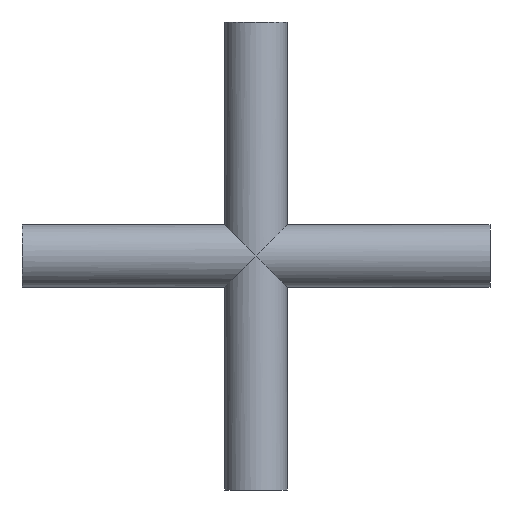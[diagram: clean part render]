
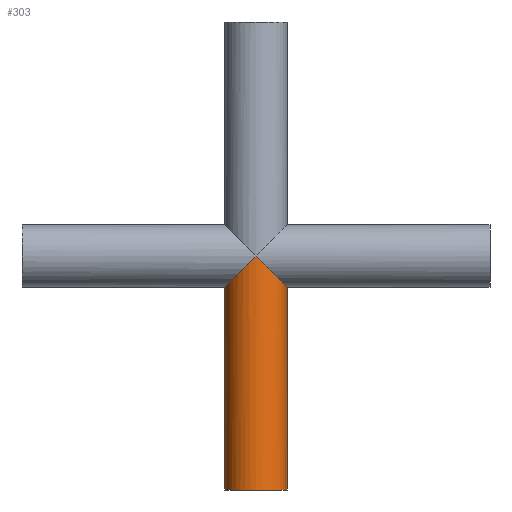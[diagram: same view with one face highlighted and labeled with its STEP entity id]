
A CAD part, front view. The second image highlights one B-rep face of the part: STEP entity #303.
In plain terms, the highlighted cylindrical face has radius 6.35 mm (diameter 12.7 mm), a partial arc.
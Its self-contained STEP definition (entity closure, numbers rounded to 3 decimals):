
#46 = LINE ( 'NONE', #204, #193 ) ;
#57 = CIRCLE ( 'NONE', #341, 6.35 ) ;
#64 = CARTESIAN_POINT ( 'NONE',  ( 0., -6.35, 0. ) ) ;
#65 = CARTESIAN_POINT ( 'NONE',  ( -6.35, -3.72, -6.35 ) ) ;
#70 = DIRECTION ( 'NONE',  ( 0., 0., 1. ) ) ;
#73 = CARTESIAN_POINT ( 'NONE',  ( -6.35, 0., -6.35 ) ) ;
#103 = CARTESIAN_POINT ( 'NONE',  ( 0., 0., -47.625 ) ) ;
#104 = ORIENTED_EDGE ( 'NONE', *, *, #285, .T. ) ;
#105 = CARTESIAN_POINT ( 'NONE',  ( 0., -6.35, 0. ) ) ;
#118 = EDGE_CURVE ( 'NONE', #192, #299, #458, .T. ) ;
#178 = VECTOR ( 'NONE', #423, 1000. ) ;
#192 = VERTEX_POINT ( 'NONE', #581 ) ;
#193 = VECTOR ( 'NONE', #70, 1000. ) ;
#199 = DIRECTION ( 'NONE',  ( 0., 0., 1. ) ) ;
#203 = CARTESIAN_POINT ( 'NONE',  ( 0., -6.35, 0. ) ) ;
#204 = CARTESIAN_POINT ( 'NONE',  ( 6.35, 0., -47.625 ) ) ;
#205 = CARTESIAN_POINT ( 'NONE',  ( 0., 0., -47.625 ) ) ;
#207 =( BOUNDED_CURVE ( )  B_SPLINE_CURVE ( 3, ( #105, #569, #65, #265 ),
 .UNSPECIFIED., .F., .T. ) 
 B_SPLINE_CURVE_WITH_KNOTS ( ( 4, 4 ),
 ( 1.571, 3.142 ),
 .UNSPECIFIED. ) 
 CURVE ( )  GEOMETRIC_REPRESENTATION_ITEM ( )  RATIONAL_B_SPLINE_CURVE ( ( 1., 0.805, 0.805, 1. ) ) 
 REPRESENTATION_ITEM ( '' )  );
#208 = DIRECTION ( 'NONE',  ( 1., 0., 0. ) ) ;
#217 = CARTESIAN_POINT ( 'NONE',  ( 6.35, 0., -47.625 ) ) ;
#219 = EDGE_CURVE ( 'NONE', #299, #413, #207, .T. ) ;
#234 = ORIENTED_EDGE ( 'NONE', *, *, #252, .F. ) ;
#252 = EDGE_CURVE ( 'NONE', #498, #413, #345, .T. ) ;
#265 = CARTESIAN_POINT ( 'NONE',  ( -6.35, 0., -6.35 ) ) ;
#266 = CARTESIAN_POINT ( 'NONE',  ( 6.35, 0., -6.35 ) ) ;
#285 = EDGE_CURVE ( 'NONE', #414, #192, #46, .T. ) ;
#299 = VERTEX_POINT ( 'NONE', #203 ) ;
#303 = ADVANCED_FACE ( 'NONE', ( #483 ), #456, .T. ) ;
#325 = ORIENTED_EDGE ( 'NONE', *, *, #389, .T. ) ;
#341 = AXIS2_PLACEMENT_3D ( 'NONE', #103, #484, #631 ) ;
#345 = LINE ( 'NONE', #524, #178 ) ;
#349 = AXIS2_PLACEMENT_3D ( 'NONE', #205, #199, #208 ) ;
#382 = ORIENTED_EDGE ( 'NONE', *, *, #118, .T. ) ;
#389 = EDGE_CURVE ( 'NONE', #498, #414, #57, .T. ) ;
#413 = VERTEX_POINT ( 'NONE', #73 ) ;
#414 = VERTEX_POINT ( 'NONE', #217 ) ;
#423 = DIRECTION ( 'NONE',  ( 0., 0., 1. ) ) ;
#456 = CYLINDRICAL_SURFACE ( 'NONE', #349, 6.35 ) ;
#458 =( BOUNDED_CURVE ( )  B_SPLINE_CURVE ( 3, ( #266, #621, #572, #64 ),
 .UNSPECIFIED., .F., .T. ) 
 B_SPLINE_CURVE_WITH_KNOTS ( ( 4, 4 ),
 ( 0., 1.571 ),
 .UNSPECIFIED. ) 
 CURVE ( )  GEOMETRIC_REPRESENTATION_ITEM ( )  RATIONAL_B_SPLINE_CURVE ( ( 1., 0.805, 0.805, 1. ) ) 
 REPRESENTATION_ITEM ( '' )  );
#483 = FACE_OUTER_BOUND ( 'NONE', #599, .T. ) ;
#484 = DIRECTION ( 'NONE',  ( 0., 0., 1. ) ) ;
#498 = VERTEX_POINT ( 'NONE', #549 ) ;
#516 = ORIENTED_EDGE ( 'NONE', *, *, #219, .T. ) ;
#524 = CARTESIAN_POINT ( 'NONE',  ( -6.35, 0., -47.625 ) ) ;
#549 = CARTESIAN_POINT ( 'NONE',  ( -6.35, 0., -47.625 ) ) ;
#569 = CARTESIAN_POINT ( 'NONE',  ( -3.72, -6.35, -3.72 ) ) ;
#572 = CARTESIAN_POINT ( 'NONE',  ( 3.72, -6.35, -3.72 ) ) ;
#581 = CARTESIAN_POINT ( 'NONE',  ( 6.35, 0., -6.35 ) ) ;
#599 = EDGE_LOOP ( 'NONE', ( #234, #325, #104, #382, #516 ) ) ;
#621 = CARTESIAN_POINT ( 'NONE',  ( 6.35, -3.72, -6.35 ) ) ;
#631 = DIRECTION ( 'NONE',  ( 1., 0., 0. ) ) ;
